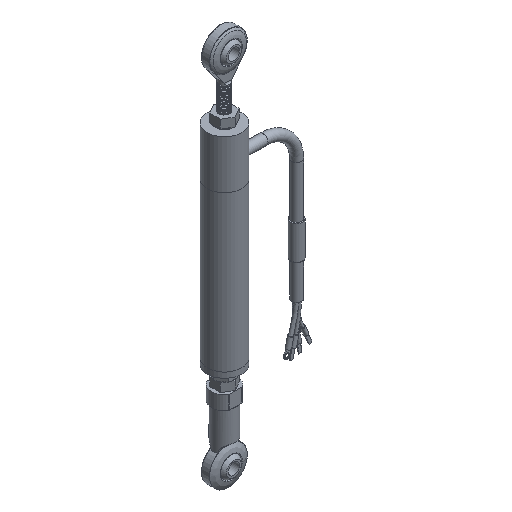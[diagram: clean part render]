
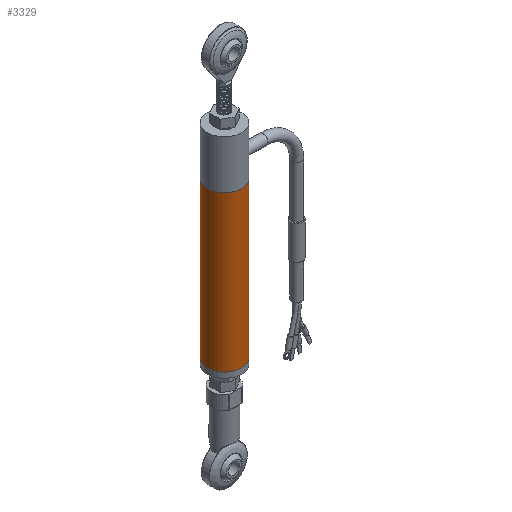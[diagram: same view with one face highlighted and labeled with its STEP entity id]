
A CAD part, isometric view. The second image highlights one B-rep face of the part: STEP entity #3329.
In plain terms, the highlighted cylindrical face has radius 6.35 mm (diameter 12.7 mm), a full revolution.
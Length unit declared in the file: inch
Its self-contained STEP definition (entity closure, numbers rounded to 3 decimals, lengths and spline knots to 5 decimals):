
#248=LINE('',#8165,#453);
#453=VECTOR('',#4234,0.25);
#633=CYLINDRICAL_SURFACE('',#3719,0.25);
#744=FACE_OUTER_BOUND('',#956,.T.);
#956=EDGE_LOOP('',(#2470,#2471,#2472,#2473,#2474));
#1140=CIRCLE('',#3711,0.25);
#1142=CIRCLE('',#3717,0.25);
#1143=CIRCLE('',#3718,0.25);
#1463=VERTEX_POINT('',#8108);
#1468=VERTEX_POINT('',#8159);
#1469=VERTEX_POINT('',#8161);
#1826=EDGE_CURVE('',#1463,#1463,#1140,.T.);
#1833=EDGE_CURVE('',#1469,#1468,#1142,.T.);
#1834=EDGE_CURVE('',#1468,#1469,#1143,.T.);
#1835=EDGE_CURVE('',#1463,#1469,#248,.T.);
#2470=ORIENTED_EDGE('',*,*,#1826,.F.);
#2471=ORIENTED_EDGE('',*,*,#1835,.T.);
#2472=ORIENTED_EDGE('',*,*,#1833,.T.);
#2473=ORIENTED_EDGE('',*,*,#1834,.T.);
#2474=ORIENTED_EDGE('',*,*,#1835,.F.);
#3329=ADVANCED_FACE('',(#744),#633,.T.);
#3711=AXIS2_PLACEMENT_3D('',#8110,#4214,#4215);
#3717=AXIS2_PLACEMENT_3D('',#8162,#4228,#4229);
#3718=AXIS2_PLACEMENT_3D('',#8163,#4230,#4231);
#3719=AXIS2_PLACEMENT_3D('',#8164,#4232,#4233);
#4214=DIRECTION('center_axis',(0.,0.,-1.));
#4215=DIRECTION('ref_axis',(-1.,0.,0.));
#4228=DIRECTION('center_axis',(0.,0.,-1.));
#4229=DIRECTION('ref_axis',(-1.,0.,0.));
#4230=DIRECTION('center_axis',(0.,0.,-1.));
#4231=DIRECTION('ref_axis',(-1.,0.,0.));
#4232=DIRECTION('center_axis',(0.,0.,-1.));
#4233=DIRECTION('ref_axis',(-1.,0.,0.));
#4234=DIRECTION('',(0.,0.,1.));
#8108=CARTESIAN_POINT('',(0.25,0.,-2.94488));
#8110=CARTESIAN_POINT('Origin',(0.,0.,-2.94488));
#8159=CARTESIAN_POINT('',(-0.25,0.,-0.7));
#8161=CARTESIAN_POINT('',(0.25,0.,-0.7));
#8162=CARTESIAN_POINT('Origin',(0.,0.,-0.7));
#8163=CARTESIAN_POINT('Origin',(0.,0.,-0.7));
#8164=CARTESIAN_POINT('Origin',(0.,0.,0.));
#8165=CARTESIAN_POINT('',(0.25,0.,0.));
